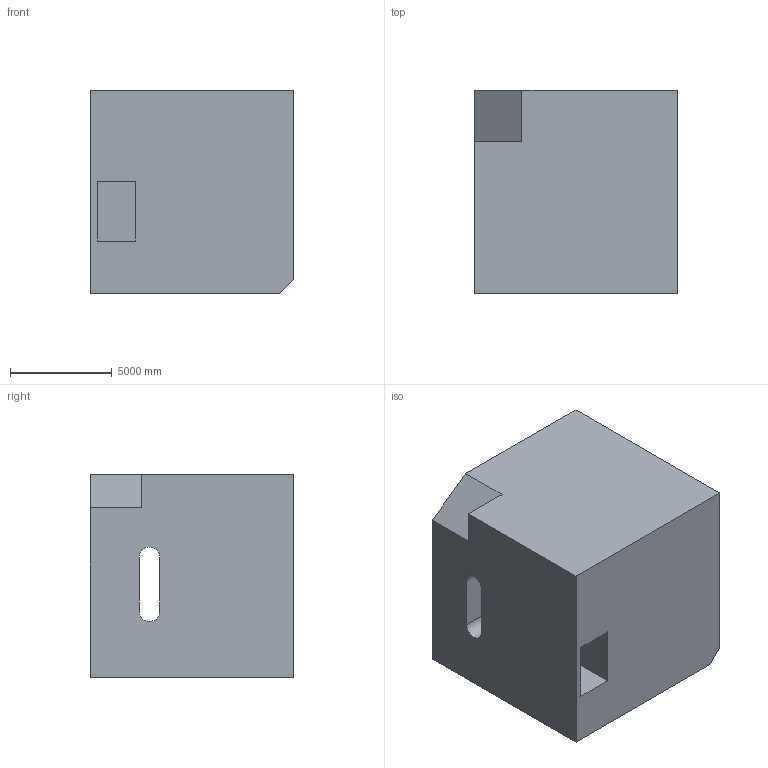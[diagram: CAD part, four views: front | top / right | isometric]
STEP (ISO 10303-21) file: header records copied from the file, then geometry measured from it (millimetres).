
FILE_DESCRIPTION (( 'STEP AP203' ), '1' );
FILE_NAME ('133.STEP', '2022-09-05T15:39:48', ( 'user' ), ( '' ), 'SwSTEP 2.0', 'SolidWorks 2021', '' );
FILE_SCHEMA (( 'CONFIG_CONTROL_DESIGN' ));
Length unit declared in the file: centimetre
Products named in the file (1): 133
Bounding box: 10000 x 10000 x 10000 mm (x, y, z)
Volume: 928796441480.2 mm3; surface area: 721444124 mm2
Topology: 1 solids, 1 shells, 19 faces, 48 edges, 32 vertices
Faces by surface type: plane 16, cylinder 3
Entity records: 649 total; most frequent: CARTESIAN_POINT 100, ORIENTED_EDGE 96, DIRECTION 94, EDGE_CURVE 48, VECTOR 42, LINE 42, VERTEX_POINT 32, AXIS2_PLACEMENT_3D 26
